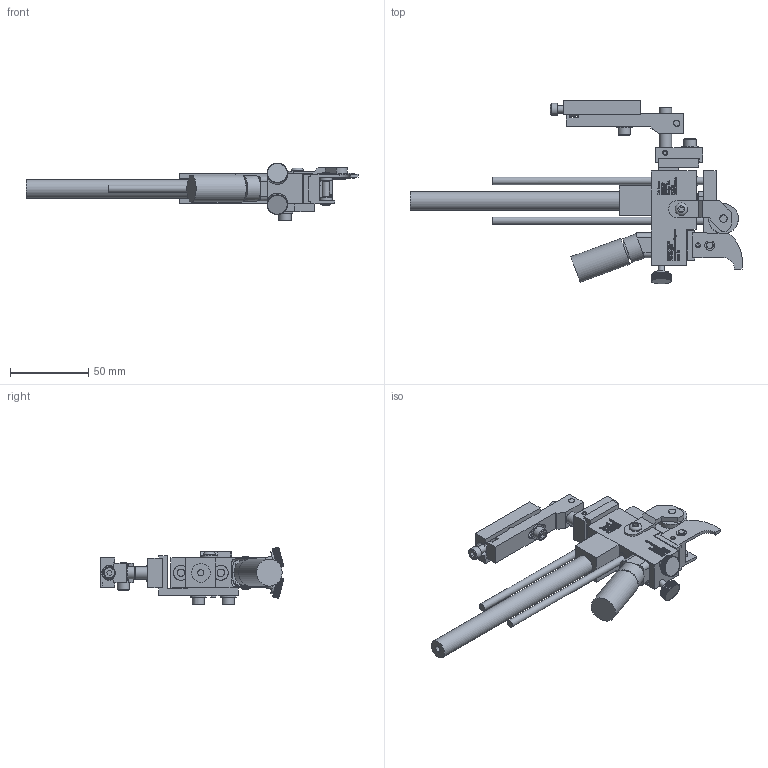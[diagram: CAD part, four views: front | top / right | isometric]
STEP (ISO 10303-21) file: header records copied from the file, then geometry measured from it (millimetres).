
FILE_DESCRIPTION((''),'2;1');
FILE_NAME('C:\Documents and Settings\Ron\My Documents\Inventor\Sprinter Drawing\Machines in Inventor\Model 44\Dot\3-sixteenth\Ext Str\E2\Brkt\Ret\Model 44 E2 .187 dia dot Ret w brkt.stp','2009-01-23T09:51:10',('Ron'),(''),'Autodesk Inventor 2008','Autodesk Inventor 2008','');
FILE_SCHEMA(('AUTOMOTIVE_DESIGN { 1 0 10303 214 1 1 1 1 }'));
Length unit declared in the file: inch
Products named in the file (1): Model 44 E2 .187 dia dot Ret w brkt
Bounding box: 211.8 x 117.12 x 36.82 mm (x, y, z)
Volume: 110966.2 mm3; surface area: 54140.6 mm2
Topology: 381 solids, 381 shells, 6210 faces, 15431 edges, 9545 vertices
Faces by surface type: plane 4365, bspline 1320, cylinder 471, cone 48, torus 6
Full cylindrical faces by diameter (mm): 3.175 x4, 3.302 x1, 3.962 x1, 4.064 x7, 4.166 x1, 4.699 x1, 4.75 x5, 4.775 x1, 4.826 x7, 5.144 x1, 5.156 x5, 5.207 x2, 5.41 x2, 6.096 x1, 6.274 x2, 6.68 x1, 7.239 x1, 7.62 x1, 7.925 x7, 7.938 x1, 8.128 x1, 9.017 x1, 9.525 x2, 10.312 x4, 10.922 x1, 11.036 x1, 11.938 x2, 12.522 x1, 14.478 x1, 16.256 x1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
Entity records: 197902 total; most frequent: CARTESIAN_POINT 54156, ORIENTED_EDGE 30410, DIRECTION 23643, EDGE_CURVE 15205, VECTOR 11403, LINE 11403, VERTEX_POINT 9480, EDGE_LOOP 6777
